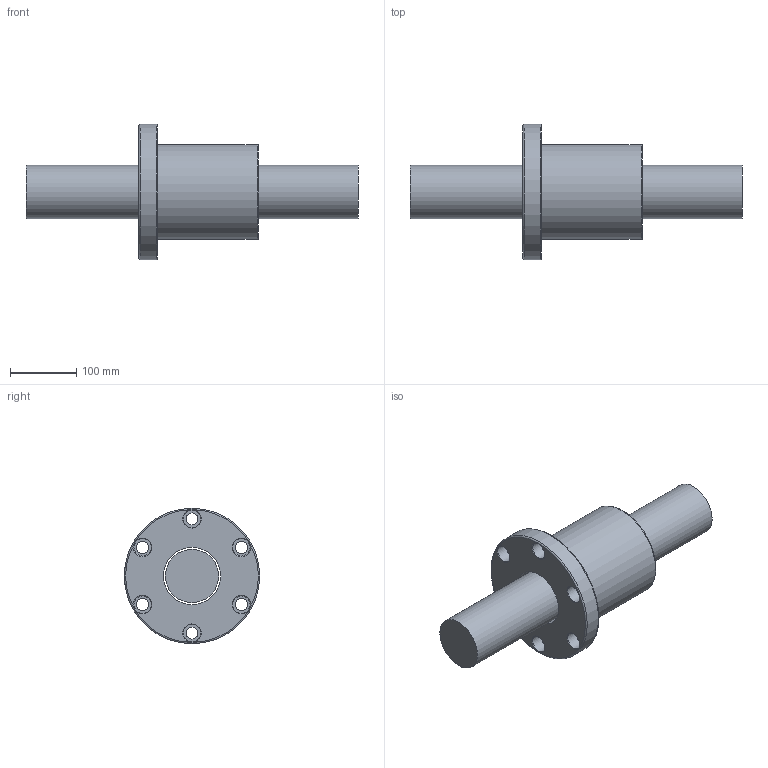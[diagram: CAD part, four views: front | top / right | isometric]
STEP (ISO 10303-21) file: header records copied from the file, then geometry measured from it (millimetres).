
FILE_DESCRIPTION (( 'STEP AP203' ), '1' );
FILE_NAME ('SFV08020N-4.8.step', '2024-05-20T03:40:47', ( '' ), ( '' ), 'SwSTEP 2.0', 'SolidWorks 2022', '' );
FILE_SCHEMA (( 'CONFIG_CONTROL_DESIGN' ));
Length unit declared in the file: millimetre
Products named in the file (1): SFV08020N-4.8
Bounding box: 500 x 204 x 204 mm (x, y, z)
Volume: 4745896.2 mm3; surface area: 332506.7 mm2
Topology: 2 solids, 2 shells, 57 faces, 128 edges, 82 vertices
Faces by surface type: cylinder 24, cone 13, plane 12, bspline 5, torus 3
Full cylindrical faces by diameter (mm): 4 x1, 7 x6, 18 x6, 26 x6, 80 x1, 86.1 x1, 143 x1, 204 x1
Entity records: 3292 total; most frequent: CARTESIAN_POINT 2292, DIRECTION 194, ORIENTED_EDGE 128, EDGE_LOOP 108, AXIS2_PLACEMENT_3D 96, FACE_OUTER_BOUND 72, EDGE_CURVE 64, VERTEX_POINT 60
